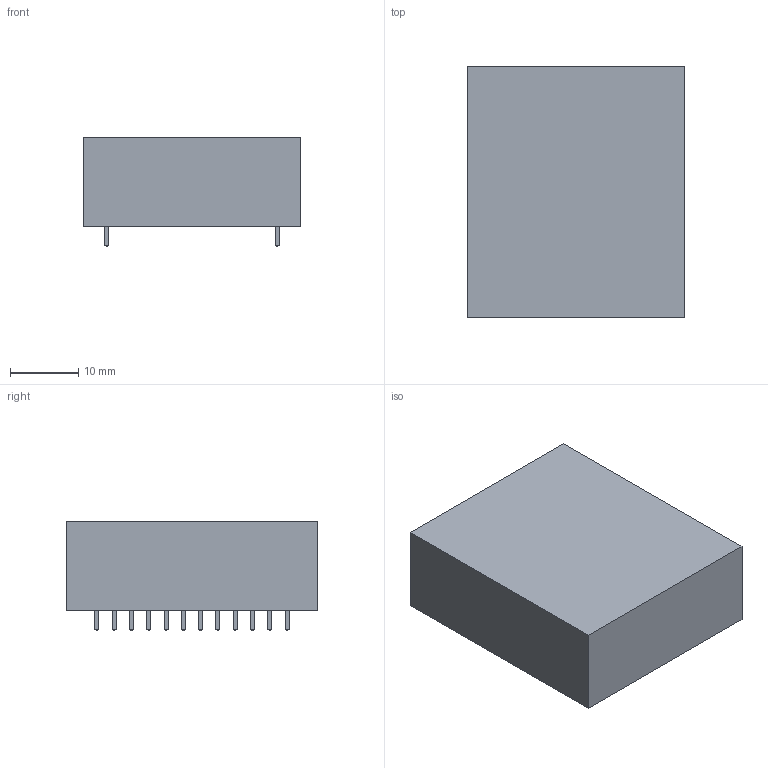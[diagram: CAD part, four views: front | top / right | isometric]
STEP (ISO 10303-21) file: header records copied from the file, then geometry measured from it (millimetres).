
FILE_DESCRIPTION(('FreeCAD Model'),'2;1');
FILE_NAME('Ag105.step','2021-02-05T12:23:55',( 'Author'),(''),'Open CASCADE STEP processor 7.3','FreeCAD','Unknown' );
FILE_SCHEMA(('AUTOMOTIVE_DESIGN { 1 0 10303 214 1 1 1 1 }'));
Length unit declared in the file: millimetre
Products named in the file (1): Chamfer
Bounding box: 32 x 37 x 16.14 mm (x, y, z)
Volume: 15580.7 mm3; surface area: 4332.1 mm2
Topology: 1 solids, 1 shells, 204 faces, 452 edges, 272 vertices
Faces by surface type: plane 204
Entity records: 11289 total; most frequent: CARTESIAN_POINT 1833, DIRECTION 1766, LINE 1356, VECTOR 1356, ORIENTED_EDGE 904, PCURVE 904, DEFINITIONAL_REPRESENTATION 904, EDGE_CURVE 452
